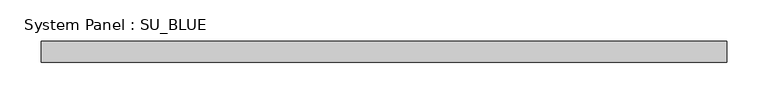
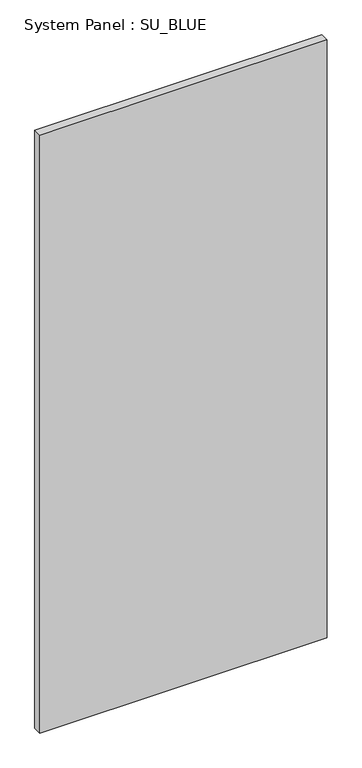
"""IFC4 building model written with IfcOpenShell, lengths in millimetres: plate geometry, System Panel : SU_BLUE."""

from ifc_helpers import new_model, si_unit, origin, origin_with_axes, place, context, project, spatial, polyline, outline, extrude, source, transform, mapped, element, save


def system_panel_su_blue_583b5c60(model_context):
    return source(origin(), model_context, "Body", "SweptSolid", [
        extrude(outline(polyline([(415.3596123, 19.05), (-415.3596123, 19.05), (-415.3596123, 44.45), (415.3596123, 44.45), (415.3596123, 19.05)])), origin_with_axes(), (0.0, 0.0, 1.0), 1828.8),
    ])


if __name__ == "__main__":
    model = new_model("IFC4")
    model_context = context("Model", 3, world=origin())
    ifc_project = project(units=[si_unit("LENGTHUNIT", "METRE", prefix="MILLI")], contexts=[model_context])
    site = spatial("IfcSite", under=ifc_project)
    building = spatial("IfcBuilding", under=site)
    placement = place(None, origin())
    system_panel_su_blue_shape = system_panel_su_blue_583b5c60(model_context)
    element("IfcPlate", 1, ObjectType="System Panel : SU_BLUE", at=placement, inside=building, context=model_context, shape_type="MappedRepresentation", body=[
        mapped(system_panel_su_blue_shape, transform((0.0, 0.0, 0.0), x_axis=(1.0, 0.0, 0.0), y_axis=(0.0, 1.0, 0.0), z_axis=(0.0, 0.0, 1.0))),
    ])
    save(model, "model.ifc")
